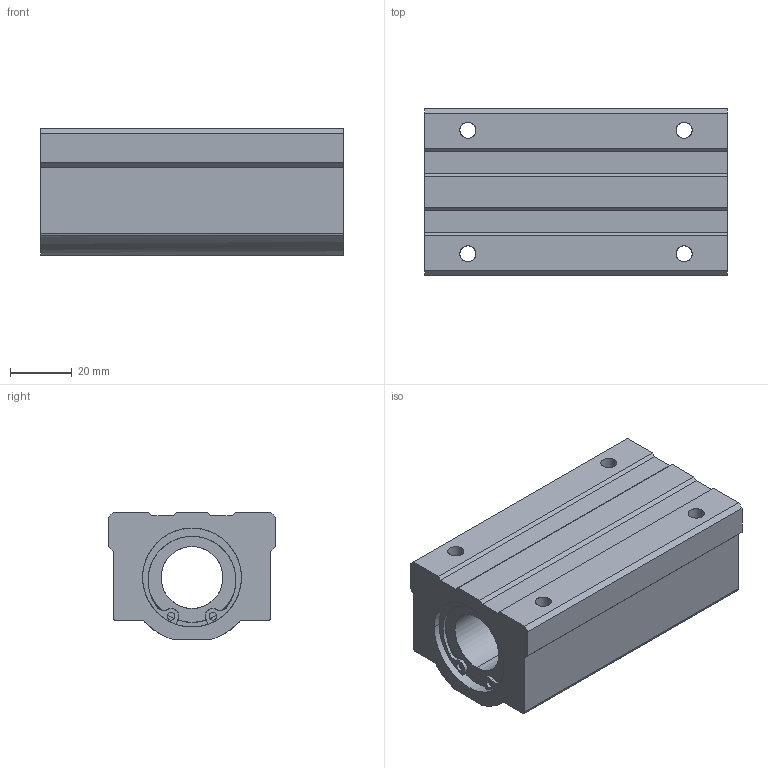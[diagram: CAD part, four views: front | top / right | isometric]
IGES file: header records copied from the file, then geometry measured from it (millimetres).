
Global section: file name: No Iges File Name specified; native system: AutoDesk Inventor R10; preprocessor: AutoDesk Inventor Iges Exporter R10; author: No Author specified; organization: No Organization specified; date: 20101216.173649; units: millimetre
Bounding box: 98 x 54 x 41 mm (x, y, z)
Surface area: 30567.6 mm2 (no closed solid volume)
Topology: 0 solids, 0 shells, 102 faces, 704 edges, 704 vertices
Faces by surface type: bspline 102
